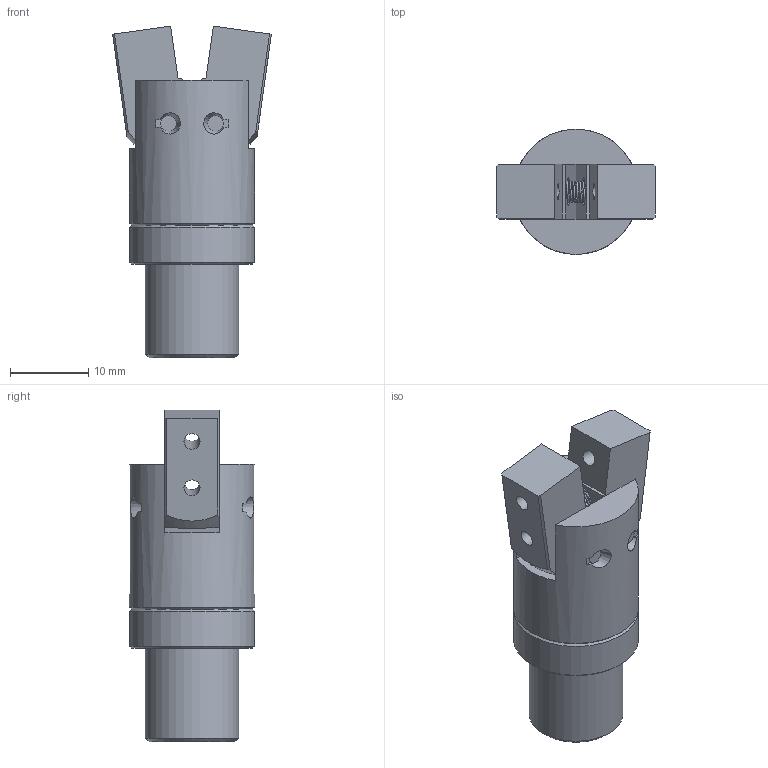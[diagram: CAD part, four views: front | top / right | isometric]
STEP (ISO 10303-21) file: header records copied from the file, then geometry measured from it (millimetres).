
FILE_DESCRIPTION (( 'STEP AP214' ), '1' );
FILE_NAME ('1225.STEP', '2024-06-20T13:01:52', ( '' ), ( '' ), 'SwSTEP 2.0', 'SolidWorks 2022', '' );
FILE_SCHEMA (( 'AUTOMOTIVE_DESIGN' ));
Length unit declared in the file: millimetre
Products named in the file (1): 1225
Bounding box: 20.32 x 16 x 42.46 mm (x, y, z)
Volume: 6561.9 mm3; surface area: 3927.5 mm2
Topology: 6 solids, 6 shells, 81 faces, 187 edges, 122 vertices
Faces by surface type: plane 52, cylinder 18, cone 10, bspline 1
Full cylindrical faces by diameter (mm): 2 x8, 2.05 x4, 3.6 x2, 4.2 x1, 12 x1, 16 x2
Entity records: 3639 total; most frequent: CARTESIAN_POINT 1617, DIRECTION 352, ORIENTED_EDGE 308, EDGE_CURVE 154, AXIS2_PLACEMENT_3D 139, EDGE_LOOP 128, VERTEX_POINT 112, FACE_OUTER_BOUND 100
